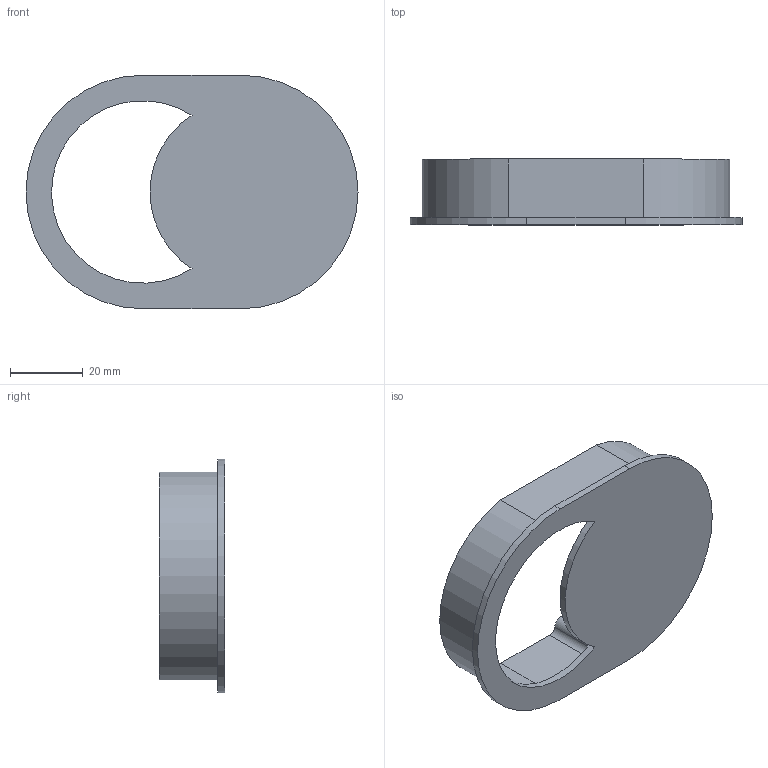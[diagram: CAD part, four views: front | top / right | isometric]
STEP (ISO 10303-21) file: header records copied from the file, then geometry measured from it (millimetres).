
FILE_DESCRIPTION( ( '' ), '1' );
FILE_NAME( 'C:/Documents and Settings/Nikhil/Desktop/Nik/Done/9145715.stp', '2013-10-23T07:48:16', ( '' ), ( '' ), ' ', ' ', ' ' );
FILE_SCHEMA( ( 'automotive_design' ) );
Length unit declared in the file: millimetre
Products named in the file (1): 1
Bounding box: 91 x 18 x 64 mm (x, y, z)
Volume: 15414.8 mm3; surface area: 15783.4 mm2
Topology: 1 solids, 1 shells, 33 faces, 81 edges, 54 vertices
Faces by surface type: cylinder 19, plane 14
Entity records: 1960 total; most frequent: DIRECTION 187, STYLED_ITEM 169, PRESENTATION_STYLE_ASSIGNMENT 169, CARTESIAN_POINT 169, COLOUR_RGB 169, ORIENTED_EDGE 162, EDGE_CURVE 81, CURVE_STYLE 81
